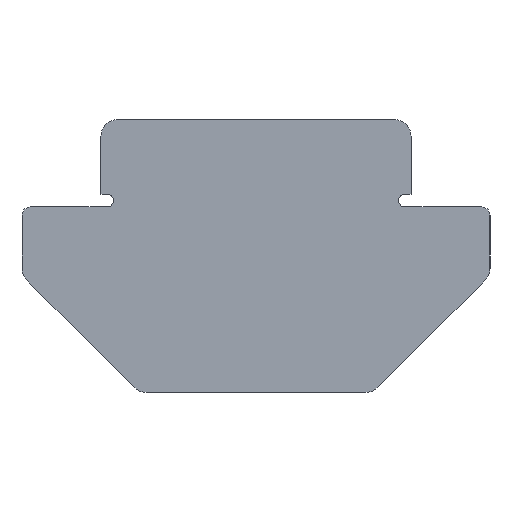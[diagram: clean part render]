
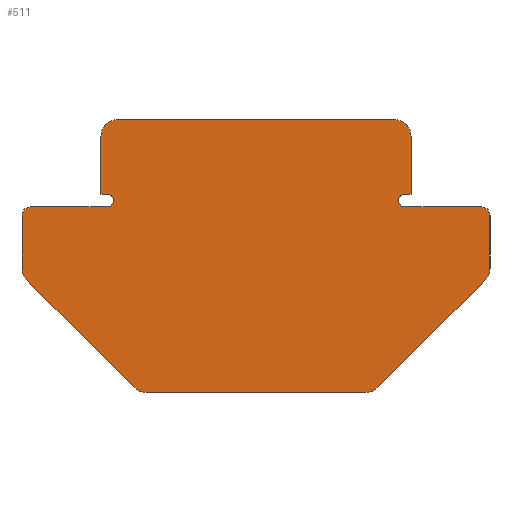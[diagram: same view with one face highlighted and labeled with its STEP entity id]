
A CAD part, left-side view. The second image highlights one B-rep face of the part: STEP entity #511.
In plain terms, the highlighted planar face has unit normal (-1, 0, 0).
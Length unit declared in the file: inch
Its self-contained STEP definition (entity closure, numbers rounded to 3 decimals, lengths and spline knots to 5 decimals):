
#9=CARTESIAN_POINT('',(-1.315,0.1665,0.308));
#10=DIRECTION('',(-1.,0.,0.));
#11=DIRECTION('',(0.,0.,1.));
#12=AXIS2_PLACEMENT_3D('',#9,#10,#11);
#14=DIRECTION('',(0.,1.,0.));
#15=VECTOR('',#14,0.333);
#16=CARTESIAN_POINT('',(-1.315,-0.1665,0.328));
#17=LINE('',#16,#15);
#18=CARTESIAN_POINT('',(-1.315,-0.1665,0.308));
#19=DIRECTION('',(-1.,0.,0.));
#20=DIRECTION('',(0.,-1.,0.));
#21=AXIS2_PLACEMENT_3D('',#18,#19,#20);
#23=DIRECTION('',(0.,0.,1.));
#24=VECTOR('',#23,0.07);
#25=CARTESIAN_POINT('',(-1.315,-0.1865,0.238));
#26=LINE('',#25,#24);
#27=DIRECTION('',(0.,-1.,0.));
#28=VECTOR('',#27,0.0075);
#29=CARTESIAN_POINT('',(-1.315,-0.179,0.238));
#30=LINE('',#29,#28);
#31=CARTESIAN_POINT('',(-1.315,-0.179,0.2305));
#32=DIRECTION('',(1.,0.,0.));
#33=DIRECTION('',(0.,0.,-1.));
#34=AXIS2_PLACEMENT_3D('',#31,#32,#33);
#36=DIRECTION('',(0.,1.,0.));
#37=VECTOR('',#36,0.0925);
#38=CARTESIAN_POINT('',(-1.315,-0.2715,0.223));
#39=LINE('',#38,#37);
#40=CARTESIAN_POINT('',(-1.315,-0.2715,0.213));
#41=DIRECTION('',(-1.,0.,0.));
#42=DIRECTION('',(0.,-1.,0.));
#43=AXIS2_PLACEMENT_3D('',#40,#41,#42);
#45=DIRECTION('',(0.,0.,1.));
#46=VECTOR('',#45,0.06372);
#47=CARTESIAN_POINT('',(-1.315,-0.2815,0.14928));
#48=LINE('',#47,#46);
#49=CARTESIAN_POINT('',(-1.315,-0.2615,0.14928));
#50=DIRECTION('',(-1.,0.,0.));
#51=DIRECTION('',(0.,-0.707,-0.707));
#52=AXIS2_PLACEMENT_3D('',#49,#50,#51);
#54=DIRECTION('',(0.,-0.707,0.707));
#55=VECTOR('',#54,0.18284);
#56=CARTESIAN_POINT('',(-1.315,-0.14636,0.00586));
#57=LINE('',#56,#55);
#58=CARTESIAN_POINT('',(-1.315,-0.13222,0.02));
#59=DIRECTION('',(-1.,0.,0.));
#60=DIRECTION('',(0.,0.,-1.));
#61=AXIS2_PLACEMENT_3D('',#58,#59,#60);
#63=DIRECTION('',(0.,-1.,0.));
#64=VECTOR('',#63,0.26443);
#65=CARTESIAN_POINT('',(-1.315,0.13222,0.));
#66=LINE('',#65,#64);
#67=CARTESIAN_POINT('',(-1.315,0.13222,0.02));
#68=DIRECTION('',(-1.,0.,0.));
#69=DIRECTION('',(0.,0.707,-0.707));
#70=AXIS2_PLACEMENT_3D('',#67,#68,#69);
#72=DIRECTION('',(0.,-0.707,-0.707));
#73=VECTOR('',#72,0.18284);
#74=CARTESIAN_POINT('',(-1.315,0.27564,0.13514));
#75=LINE('',#74,#73);
#76=CARTESIAN_POINT('',(-1.315,0.2615,0.14928));
#77=DIRECTION('',(-1.,0.,0.));
#78=DIRECTION('',(0.,1.,0.));
#79=AXIS2_PLACEMENT_3D('',#76,#77,#78);
#81=DIRECTION('',(0.,0.,-1.));
#82=VECTOR('',#81,0.06372);
#83=CARTESIAN_POINT('',(-1.315,0.2815,0.213));
#84=LINE('',#83,#82);
#85=CARTESIAN_POINT('',(-1.315,0.2715,0.213));
#86=DIRECTION('',(-1.,0.,0.));
#87=DIRECTION('',(0.,0.,1.));
#88=AXIS2_PLACEMENT_3D('',#85,#86,#87);
#90=DIRECTION('',(0.,1.,0.));
#91=VECTOR('',#90,0.0925);
#92=CARTESIAN_POINT('',(-1.315,0.179,0.223));
#93=LINE('',#92,#91);
#94=CARTESIAN_POINT('',(-1.315,0.179,0.2305));
#95=DIRECTION('',(1.,0.,0.));
#96=DIRECTION('',(0.,0.,1.));
#97=AXIS2_PLACEMENT_3D('',#94,#95,#96);
#99=DIRECTION('',(0.,-1.,0.));
#100=VECTOR('',#99,0.0075);
#101=CARTESIAN_POINT('',(-1.315,0.1865,0.238));
#102=LINE('',#101,#100);
#103=DIRECTION('',(0.,0.,-1.));
#104=VECTOR('',#103,0.07);
#105=CARTESIAN_POINT('',(-1.315,0.1865,0.308));
#106=LINE('',#105,#104);
#342=CARTESIAN_POINT('',(-1.315,-0.179,0.238));
#344=VERTEX_POINT('',#342);
#345=CARTESIAN_POINT('',(-1.315,0.2715,0.223));
#347=VERTEX_POINT('',#345);
#349=CARTESIAN_POINT('',(-1.315,-0.1865,0.238));
#350=VERTEX_POINT('',#349);
#351=CARTESIAN_POINT('',(-1.315,-0.1865,0.308));
#352=VERTEX_POINT('',#351);
#353=CARTESIAN_POINT('',(-1.315,-0.2815,0.213));
#354=CARTESIAN_POINT('',(-1.315,-0.2715,0.223));
#355=VERTEX_POINT('',#353);
#356=VERTEX_POINT('',#354);
#357=CARTESIAN_POINT('',(-1.315,-0.179,0.223));
#358=VERTEX_POINT('',#357);
#359=CARTESIAN_POINT('',(-1.315,0.1865,0.308));
#360=CARTESIAN_POINT('',(-1.315,0.1865,0.238));
#361=VERTEX_POINT('',#359);
#362=VERTEX_POINT('',#360);
#369=CARTESIAN_POINT('',(-1.315,-0.2815,0.14928));
#370=VERTEX_POINT('',#369);
#375=CARTESIAN_POINT('',(-1.315,-0.27564,0.13514));
#376=VERTEX_POINT('',#375);
#377=CARTESIAN_POINT('',(-1.315,0.179,0.238));
#378=CARTESIAN_POINT('',(-1.315,0.179,0.223));
#379=VERTEX_POINT('',#377);
#380=VERTEX_POINT('',#378);
#385=CARTESIAN_POINT('',(-1.315,0.2815,0.213));
#386=VERTEX_POINT('',#385);
#401=CARTESIAN_POINT('',(-1.315,0.2815,0.14928));
#402=VERTEX_POINT('',#401);
#408=CARTESIAN_POINT('',(-1.315,0.27564,0.13514));
#410=VERTEX_POINT('',#408);
#414=CARTESIAN_POINT('',(-1.315,-0.1665,0.328));
#416=VERTEX_POINT('',#414);
#419=CARTESIAN_POINT('',(-1.315,0.1665,0.328));
#420=VERTEX_POINT('',#419);
#427=CARTESIAN_POINT('',(-1.315,-0.14636,0.00586));
#428=VERTEX_POINT('',#427);
#429=CARTESIAN_POINT('',(-1.315,0.14636,0.00586));
#430=VERTEX_POINT('',#429);
#432=CARTESIAN_POINT('',(-1.315,0.13222,0.));
#434=VERTEX_POINT('',#432);
#441=CARTESIAN_POINT('',(-1.315,-0.13222,0.));
#442=VERTEX_POINT('',#441);
#461=CARTESIAN_POINT('',(-1.315,0.1665,0.308));
#462=DIRECTION('',(1.,0.,0.));
#463=DIRECTION('',(0.,0.,-1.));
#464=AXIS2_PLACEMENT_3D('',#461,#462,#463);
#465=PLANE('',#464);
#467=ORIENTED_EDGE('',*,*,#466,.F.);
#469=ORIENTED_EDGE('',*,*,#468,.F.);
#471=ORIENTED_EDGE('',*,*,#470,.F.);
#473=ORIENTED_EDGE('',*,*,#472,.F.);
#475=ORIENTED_EDGE('',*,*,#474,.F.);
#477=ORIENTED_EDGE('',*,*,#476,.F.);
#479=ORIENTED_EDGE('',*,*,#478,.F.);
#481=ORIENTED_EDGE('',*,*,#480,.F.);
#483=ORIENTED_EDGE('',*,*,#482,.F.);
#484=ORIENTED_EDGE('',*,*,#450,.F.);
#486=ORIENTED_EDGE('',*,*,#485,.F.);
#488=ORIENTED_EDGE('',*,*,#487,.F.);
#490=ORIENTED_EDGE('',*,*,#489,.F.);
#492=ORIENTED_EDGE('',*,*,#491,.F.);
#494=ORIENTED_EDGE('',*,*,#493,.F.);
#496=ORIENTED_EDGE('',*,*,#495,.F.);
#498=ORIENTED_EDGE('',*,*,#497,.F.);
#500=ORIENTED_EDGE('',*,*,#499,.F.);
#502=ORIENTED_EDGE('',*,*,#501,.F.);
#504=ORIENTED_EDGE('',*,*,#503,.F.);
#506=ORIENTED_EDGE('',*,*,#505,.F.);
#508=ORIENTED_EDGE('',*,*,#507,.F.);
#509=EDGE_LOOP('',(#467,#469,#471,#473,#475,#477,#479,#481,#483,#484,#486,#488,
#490,#492,#494,#496,#498,#500,#502,#504,#506,#508));
#510=FACE_OUTER_BOUND('',#509,.F.);
#13=CIRCLE('',#12,0.02);
#22=CIRCLE('',#21,0.02);
#35=CIRCLE('',#34,0.0075);
#44=CIRCLE('',#43,0.01);
#53=CIRCLE('',#52,0.02);
#62=CIRCLE('',#61,0.02);
#71=CIRCLE('',#70,0.02);
#80=CIRCLE('',#79,0.02);
#89=CIRCLE('',#88,0.01);
#98=CIRCLE('',#97,0.0075);
#450=EDGE_CURVE('',#376,#370,#53,.T.);
#466=EDGE_CURVE('',#420,#361,#13,.T.);
#468=EDGE_CURVE('',#416,#420,#17,.T.);
#470=EDGE_CURVE('',#352,#416,#22,.T.);
#472=EDGE_CURVE('',#350,#352,#26,.T.);
#474=EDGE_CURVE('',#344,#350,#30,.T.);
#476=EDGE_CURVE('',#358,#344,#35,.T.);
#478=EDGE_CURVE('',#356,#358,#39,.T.);
#480=EDGE_CURVE('',#355,#356,#44,.T.);
#482=EDGE_CURVE('',#370,#355,#48,.T.);
#485=EDGE_CURVE('',#428,#376,#57,.T.);
#487=EDGE_CURVE('',#442,#428,#62,.T.);
#489=EDGE_CURVE('',#434,#442,#66,.T.);
#491=EDGE_CURVE('',#430,#434,#71,.T.);
#493=EDGE_CURVE('',#410,#430,#75,.T.);
#495=EDGE_CURVE('',#402,#410,#80,.T.);
#497=EDGE_CURVE('',#386,#402,#84,.T.);
#499=EDGE_CURVE('',#347,#386,#89,.T.);
#501=EDGE_CURVE('',#380,#347,#93,.T.);
#503=EDGE_CURVE('',#379,#380,#98,.T.);
#505=EDGE_CURVE('',#362,#379,#102,.T.);
#507=EDGE_CURVE('',#361,#362,#106,.T.);
#511=ADVANCED_FACE('',(#510),#465,.F.);
